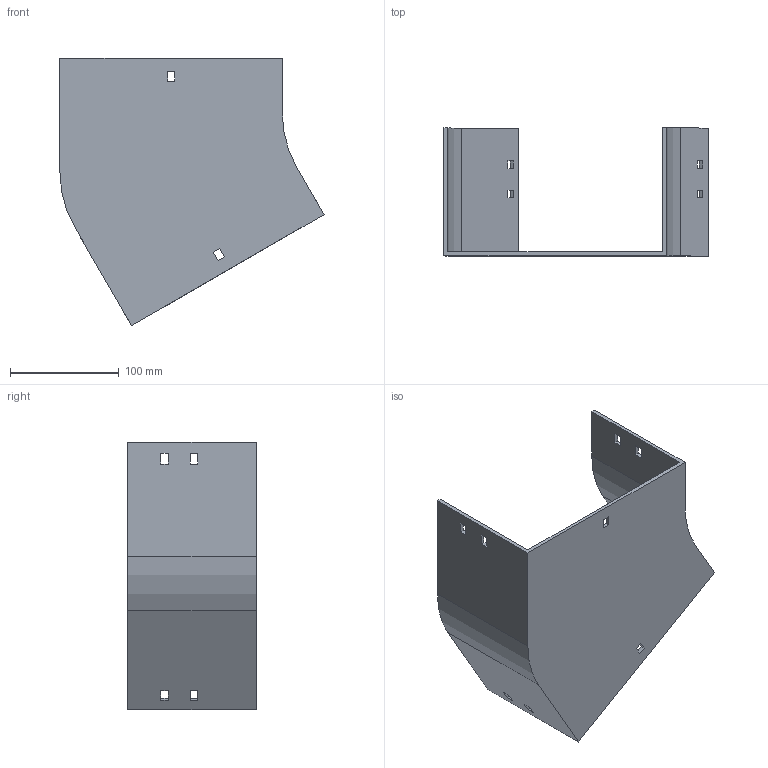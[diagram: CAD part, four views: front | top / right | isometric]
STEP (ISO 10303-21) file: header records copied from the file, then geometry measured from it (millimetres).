
FILE_DESCRIPTION (( 'STEP AP214' ), '1' );
FILE_NAME ('12B1J200.step', '2025-02-21T09:33:56', ( '' ), ( '' ), 'SwSTEP 2.0', 'SolidWorks 2023', '' );
FILE_SCHEMA (( 'AUTOMOTIVE_DESIGN' ));
Length unit declared in the file: millimetre
Products named in the file (1): 12B1J200
Bounding box: 242.4 x 117.5 x 245.3 mm (x, y, z)
Volume: 311525.2 mm3; surface area: 183656.6 mm2
Topology: 1 solids, 1 shells, 58 faces, 168 edges, 112 vertices
Faces by surface type: plane 54, cylinder 4
Entity records: 1943 total; most frequent: CARTESIAN_POINT 339, ORIENTED_EDGE 336, DIRECTION 294, EDGE_CURVE 168, LINE 160, VECTOR 160, VERTEX_POINT 112, EDGE_LOOP 78
